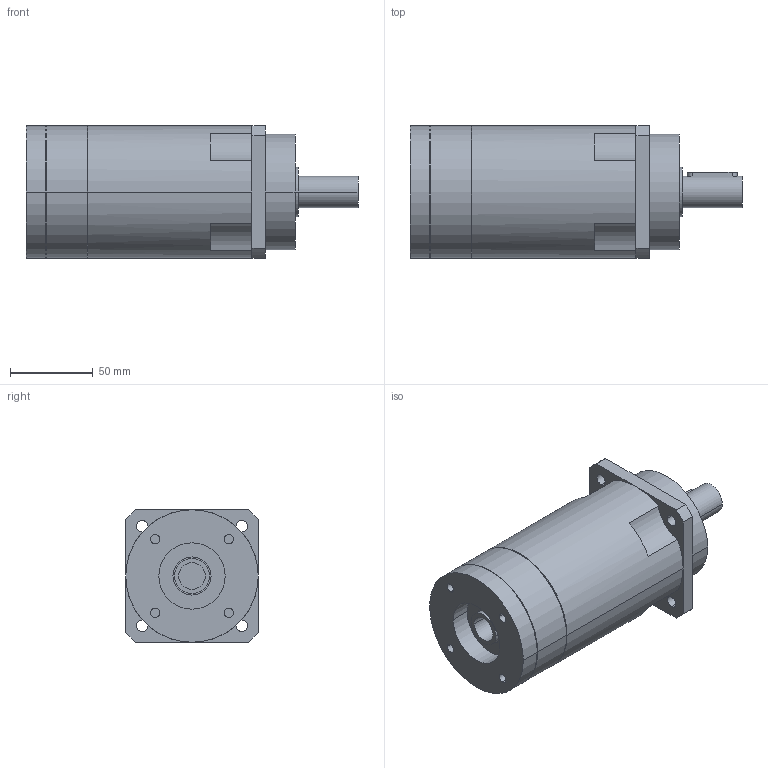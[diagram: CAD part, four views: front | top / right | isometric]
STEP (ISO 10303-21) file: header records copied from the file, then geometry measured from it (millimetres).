
FILE_DESCRIPTION(('CoCreate Modeling STEP Export'),'2;1');
FILE_NAME('GPR100_ig-48-64-80-100-120-144-180-216_19_B5_16_P17.stp','2014-08-26T11:56:16',(''),(''),'CoCreate Modeling STEP processor for AP214 (Solid Model)','CoCreate Modeling 16.00C 25-Feb-2009 (C) Parametric Technology GmbH','');
FILE_SCHEMA(('AUTOMOTIVE_DESIGN { 1 0 10303 214 1 1 1 1 }'));
Length unit declared in the file: millimetre
Products named in the file (2): GPR100_ig-48-64-80-100-120-144-180-216_19_B5_16_P17
Assembly tree (1 placements, depth 2):
  GPR100_ig-48-64-80-100-120-144-180-216_19_B5_16_P17
    GPR100_ig-48-64-80-100-120-144-180-216_19_B5_16_P17
Bounding box: 200.4 x 80 x 80 mm (x, y, z)
Volume: 785417.7 mm3; surface area: 62563.6 mm2
Topology: 1 solids, 1 shells, 96 faces, 250 edges, 172 vertices
Faces by surface type: cylinder 56, plane 34, cone 6
Entity records: 2609 total; most frequent: ORIENTED_EDGE 496, CARTESIAN_POINT 468, DIRECTION 376, EDGE_CURVE 248, VERTEX_POINT 172, AXIS2_PLACEMENT_3D 144, EDGE_LOOP 122, FACE_OUTER_BOUND 96
